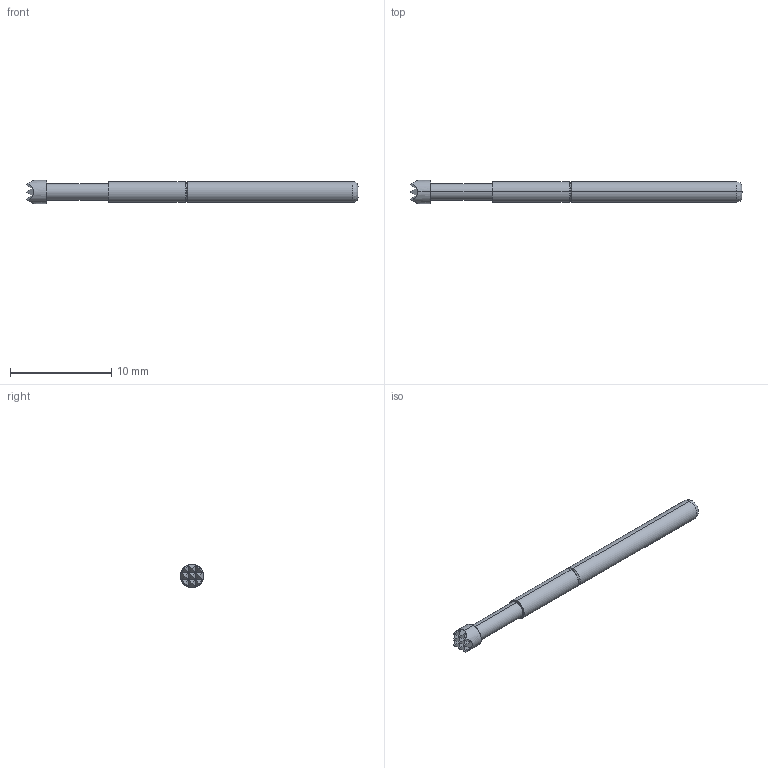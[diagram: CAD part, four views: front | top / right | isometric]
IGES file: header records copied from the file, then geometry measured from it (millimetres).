
Start section: SolidWorks IGES file using analytic representation for surfaces
Global section: file name: O:\PYLON\IGES FILES\P2665\P2665G-1W1S.IGS; native system: SolidWorks 2015; preprocessor: SolidWorks 2015; author: kgolden; date: 171019.135944; units: inch
Bounding box: 32.76 x 2.29 x 2.29 mm (x, y, z)
Surface area: 222.6 mm2 (no closed solid volume)
Topology: 0 solids, 0 shells, 47 faces, 318 edges, 318 vertices
Faces by surface type: bspline 37, revolution 10
